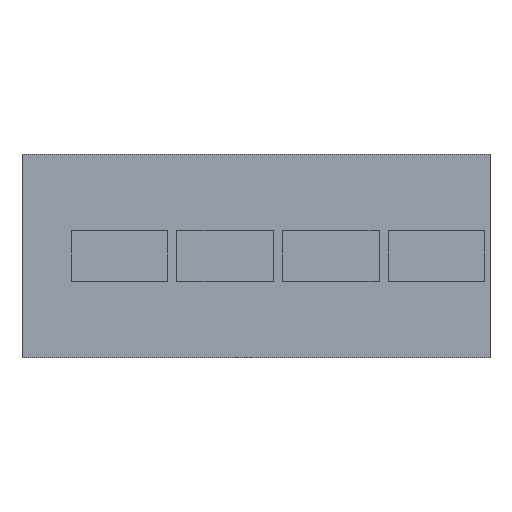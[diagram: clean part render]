
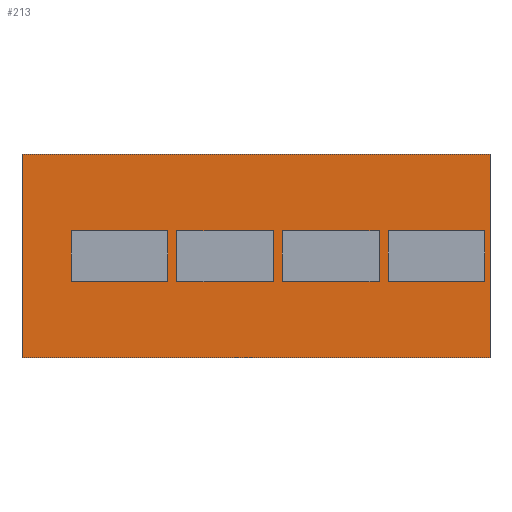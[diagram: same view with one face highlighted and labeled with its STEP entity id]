
A CAD part, top view. The second image highlights one B-rep face of the part: STEP entity #213.
In plain terms, the highlighted planar face has unit normal (0, 0, 1).
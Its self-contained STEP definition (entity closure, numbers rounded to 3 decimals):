
#84 = VERTEX_POINT('',#85);
#85 = CARTESIAN_POINT('',(97.5,87.,1.59));
#91 = EDGE_CURVE('',#84,#92,#94,.T.);
#92 = VERTEX_POINT('',#93);
#93 = CARTESIAN_POINT('',(97.5,107.,1.59));
#94 = LINE('',#95,#96);
#95 = CARTESIAN_POINT('',(97.5,87.,1.59));
#96 = VECTOR('',#97,1.);
#97 = DIRECTION('',(0.,1.,0.));
#122 = EDGE_CURVE('',#92,#123,#125,.T.);
#123 = VERTEX_POINT('',#124);
#124 = CARTESIAN_POINT('',(143.5,107.,1.59));
#125 = LINE('',#126,#127);
#126 = CARTESIAN_POINT('',(97.5,107.,1.59));
#127 = VECTOR('',#128,1.);
#128 = DIRECTION('',(1.,0.,0.));
#153 = EDGE_CURVE('',#123,#154,#156,.T.);
#154 = VERTEX_POINT('',#155);
#155 = CARTESIAN_POINT('',(143.5,87.,1.59));
#156 = LINE('',#157,#158);
#157 = CARTESIAN_POINT('',(143.5,107.,1.59));
#158 = VECTOR('',#159,1.);
#159 = DIRECTION('',(0.,-1.,0.));
#184 = EDGE_CURVE('',#154,#84,#185,.T.);
#185 = LINE('',#186,#187);
#186 = CARTESIAN_POINT('',(143.5,87.,1.59));
#187 = VECTOR('',#188,1.);
#188 = DIRECTION('',(-1.,0.,0.));
#213 = ADVANCED_FACE('',(#214),#220,.F.);
#214 = FACE_BOUND('',#215,.F.);
#215 = EDGE_LOOP('',(#216,#217,#218,#219));
#216 = ORIENTED_EDGE('',*,*,#91,.T.);
#217 = ORIENTED_EDGE('',*,*,#122,.T.);
#218 = ORIENTED_EDGE('',*,*,#153,.T.);
#219 = ORIENTED_EDGE('',*,*,#184,.T.);
#220 = PLANE('',#221);
#221 = AXIS2_PLACEMENT_3D('',#222,#223,#224);
#222 = CARTESIAN_POINT('',(120.5,97.,1.59));
#223 = DIRECTION('',(-0.,-0.,-1.));
#224 = DIRECTION('',(-1.,0.,0.));
